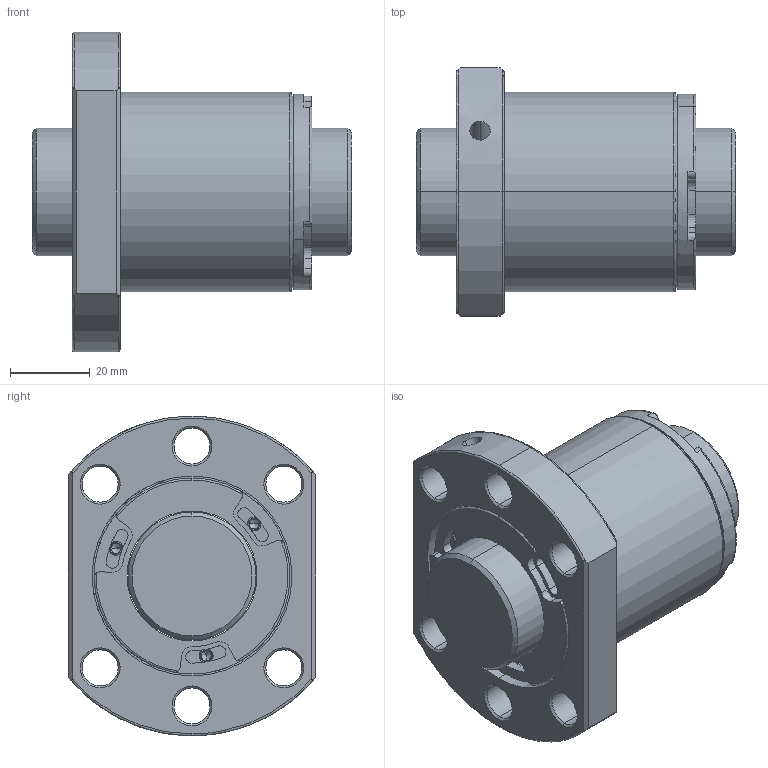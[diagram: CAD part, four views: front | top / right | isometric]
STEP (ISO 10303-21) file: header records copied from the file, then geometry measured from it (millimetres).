
FILE_DESCRIPTION (( 'STEP AP203' ), '1' );
FILE_NAME ('SFSR03210C1D-C.STEP', '2020-06-17T01:46:19', ( '' ), ( '' ), 'SwSTEP 2.0', 'SolidWorks 2013', '' );
FILE_SCHEMA (( 'CONFIG_CONTROL_DESIGN' ));
Length unit declared in the file: millimetre
Products named in the file (1): SFSR03210C1D-C
Bounding box: 80 x 62 x 80 mm (x, y, z)
Volume: 151789.3 mm3; surface area: 37272.9 mm2
Topology: 2 solids, 2 shells, 261 faces, 668 edges, 415 vertices
Faces by surface type: cylinder 127, plane 66, cone 52, bspline 16
Entity records: 8842 total; most frequent: CARTESIAN_POINT 2313, DIRECTION 1469, ORIENTED_EDGE 1312, EDGE_CURVE 656, AXIS2_PLACEMENT_3D 617, VERTEX_POINT 415, CIRCLE 371, EDGE_LOOP 295
